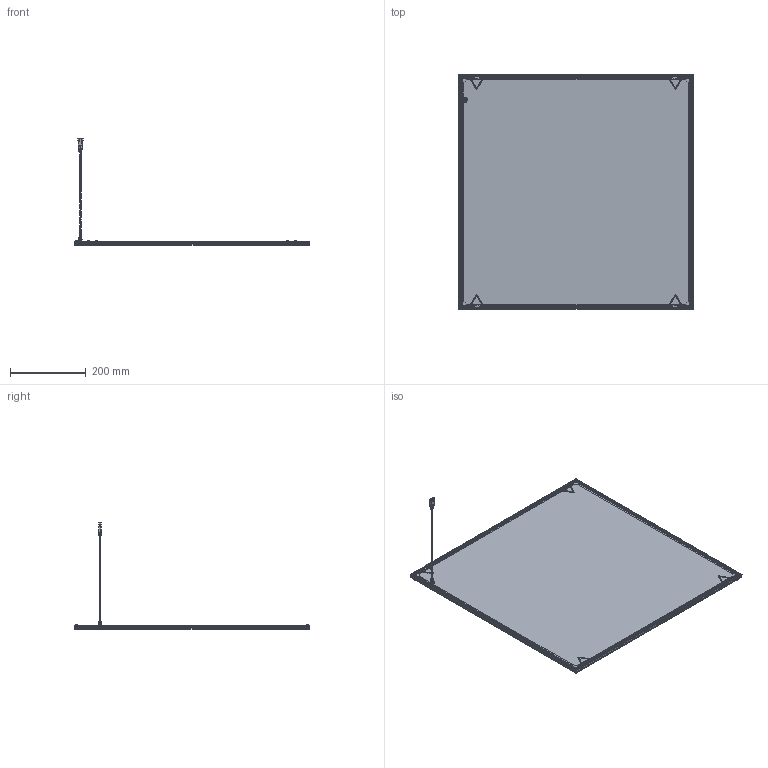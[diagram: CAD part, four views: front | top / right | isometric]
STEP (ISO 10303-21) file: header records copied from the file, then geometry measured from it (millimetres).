
FILE_DESCRIPTION((''),'2;1');
FILE_NAME('15014504Z_DMEC_620MM-ELA-G2-SNC','2021-04-29T16:51:49',('Juergen.Hrach'),(''),'CREO PARAMETRIC BY PTC INC, 2019164','CREO PARAMETRIC BY PTC INC, 2019164','');
FILE_SCHEMA(('CONFIG_CONTROL_DESIGN'));
Products named in the file (1): 15014504Z_DMEC_620MM-ELA-G2-SNC
Bounding box: 620.05 x 620.05 x 280 mm (x, y, z)
Surface area: 1757225.9 mm2
Topology: 5 solids, 41 shells, 3883 faces, 10666 edges, 6772 vertices
Faces by surface type: bspline 3113, revolution 770
Entity records: 308267 total; most frequent: CARTESIAN_POINT 228517, ORIENTED_EDGE 20792, EDGE_CURVE 10548, DIRECTION 7402, VERTEX_POINT 6771, VECTOR 5184, LINE 5184, B_SPLINE_CURVE_WITH_KNOTS 4703
